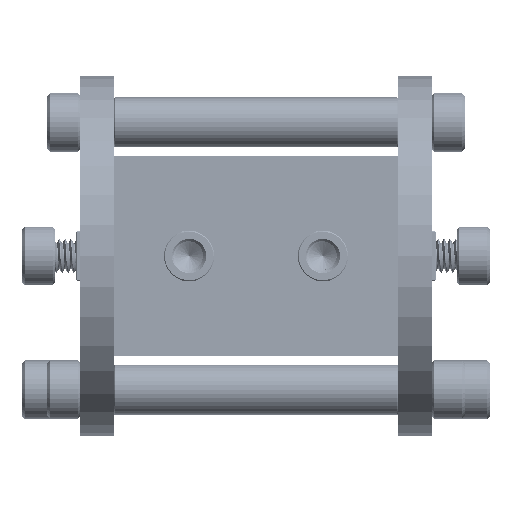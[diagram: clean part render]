
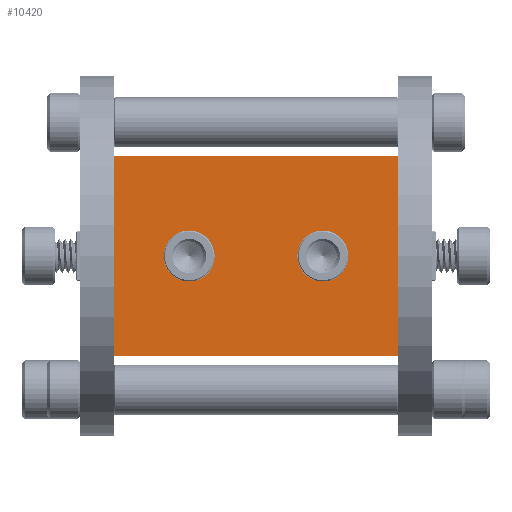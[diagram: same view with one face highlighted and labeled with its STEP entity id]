
A CAD part, front view. The second image highlights one B-rep face of the part: STEP entity #10420.
In plain terms, the highlighted planar face has unit normal (0, -1, 0).
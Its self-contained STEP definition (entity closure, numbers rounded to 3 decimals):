
#388 = AXIS2_PLACEMENT_3D ( 'NONE', #133023, #211366, #30955 ) ;
#1561 = DIRECTION ( 'NONE',  ( 0., 1., 0. ) ) ;
#5619 = VERTEX_POINT ( 'NONE', #104773 ) ;
#8354 = EDGE_LOOP ( 'NONE', ( #230948, #50774, #32605, #21586, #194324, #81010, #59736, #224327, #98295, #165509, #96641, #242982 ) ) ;
#8440 = VERTEX_POINT ( 'NONE', #69949 ) ;
#10420 = ADVANCED_FACE ( 'NONE', ( #159185, #184490, #52155 ), #213085, .F. ) ;
#12187 = VECTOR ( 'NONE', #18721, 1000. ) ;
#12696 = VECTOR ( 'NONE', #84573, 1000. ) ;
#18721 = DIRECTION ( 'NONE',  ( -1., 0., 0. ) ) ;
#19913 = EDGE_CURVE ( 'NONE', #123513, #101525, #99421, .T. ) ;
#19920 = EDGE_CURVE ( 'NONE', #145304, #210661, #253686, .T. ) ;
#21586 = ORIENTED_EDGE ( 'NONE', *, *, #160083, .T. ) ;
#24102 = CARTESIAN_POINT ( 'NONE',  ( 21., 0., 0. ) ) ;
#26021 = VECTOR ( 'NONE', #239916, 1000. ) ;
#26705 = DIRECTION ( 'NONE',  ( 0., 1., 0. ) ) ;
#27419 = ORIENTED_EDGE ( 'NONE', *, *, #148681, .F. ) ;
#29754 = CARTESIAN_POINT ( 'NONE',  ( 17., 0., -8. ) ) ;
#30955 = DIRECTION ( 'NONE',  ( 0., 0., 1. ) ) ;
#32605 = ORIENTED_EDGE ( 'NONE', *, *, #19920, .F. ) ;
#35142 = VECTOR ( 'NONE', #67130, 1000. ) ;
#37350 = VERTEX_POINT ( 'NONE', #91298 ) ;
#43489 = CARTESIAN_POINT ( 'NONE',  ( 17., 0., 12. ) ) ;
#50379 = LINE ( 'NONE', #185208, #66070 ) ;
#50774 = ORIENTED_EDGE ( 'NONE', *, *, #100689, .T. ) ;
#51886 = CARTESIAN_POINT ( 'NONE',  ( -17., 0., -12. ) ) ;
#52155 = FACE_BOUND ( 'NONE', #57941, .T. ) ;
#53676 = DIRECTION ( 'NONE',  ( 0., 0., -1. ) ) ;
#57941 = EDGE_LOOP ( 'NONE', ( #27419, #83423 ) ) ;
#58280 = EDGE_CURVE ( 'NONE', #171381, #184514, #240135, .T. ) ;
#58534 = VECTOR ( 'NONE', #221271, 1000. ) ;
#59736 = ORIENTED_EDGE ( 'NONE', *, *, #117413, .T. ) ;
#61579 = EDGE_LOOP ( 'NONE', ( #121874, #135801 ) ) ;
#64679 = DIRECTION ( 'NONE',  ( 0., 0., 1. ) ) ;
#66070 = VECTOR ( 'NONE', #64679, 1000. ) ;
#66958 = DIRECTION ( 'NONE',  ( 0., 0., -1. ) ) ;
#66994 = EDGE_CURVE ( 'NONE', #154376, #5619, #104625, .T. ) ;
#67034 = EDGE_CURVE ( 'NONE', #37350, #144685, #139207, .T. ) ;
#67130 = DIRECTION ( 'NONE',  ( 0., 0., -1. ) ) ;
#69466 = CARTESIAN_POINT ( 'NONE',  ( 0., 0., -8. ) ) ;
#69949 = CARTESIAN_POINT ( 'NONE',  ( 17., 0., -12. ) ) ;
#72788 = LINE ( 'NONE', #146378, #35142 ) ;
#75871 = AXIS2_PLACEMENT_3D ( 'NONE', #245870, #26705, #85718 ) ;
#79631 = LINE ( 'NONE', #174216, #227640 ) ;
#80423 = LINE ( 'NONE', #208610, #146599 ) ;
#81010 = ORIENTED_EDGE ( 'NONE', *, *, #153056, .F. ) ;
#82303 = CARTESIAN_POINT ( 'NONE',  ( 0., 0., -12. ) ) ;
#83423 = ORIENTED_EDGE ( 'NONE', *, *, #66994, .F. ) ;
#84573 = DIRECTION ( 'NONE',  ( 0., 0., 1. ) ) ;
#85718 = DIRECTION ( 'NONE',  ( 0., 0., 1. ) ) ;
#88090 = EDGE_CURVE ( 'NONE', #144685, #37350, #159923, .T. ) ;
#91298 = CARTESIAN_POINT ( 'NONE',  ( -8., 0., -3.05 ) ) ;
#91729 = AXIS2_PLACEMENT_3D ( 'NONE', #199601, #120412, #201352 ) ;
#93795 = CARTESIAN_POINT ( 'NONE',  ( -8., 0., 3.05 ) ) ;
#96641 = ORIENTED_EDGE ( 'NONE', *, *, #174510, .T. ) ;
#98295 = ORIENTED_EDGE ( 'NONE', *, *, #184463, .F. ) ;
#99028 = CARTESIAN_POINT ( 'NONE',  ( -17., 0., -8. ) ) ;
#99421 = LINE ( 'NONE', #24102, #58534 ) ;
#100024 = CARTESIAN_POINT ( 'NONE',  ( 0., 0., 8. ) ) ;
#100689 = EDGE_CURVE ( 'NONE', #184514, #210661, #80423, .T. ) ;
#100728 = DIRECTION ( 'NONE',  ( -1., 0., 0. ) ) ;
#101525 = VERTEX_POINT ( 'NONE', #131581 ) ;
#104625 = CIRCLE ( 'NONE', #144123, 3.05 ) ;
#104773 = CARTESIAN_POINT ( 'NONE',  ( 8., 0., -3.05 ) ) ;
#104903 = CARTESIAN_POINT ( 'NONE',  ( -17., 0., 8. ) ) ;
#115353 = LINE ( 'NONE', #216880, #190833 ) ;
#117413 = EDGE_CURVE ( 'NONE', #228860, #101525, #213375, .T. ) ;
#118021 = VERTEX_POINT ( 'NONE', #149751 ) ;
#119304 = LINE ( 'NONE', #239602, #12187 ) ;
#120412 = DIRECTION ( 'NONE',  ( 0., -1., 0. ) ) ;
#121874 = ORIENTED_EDGE ( 'NONE', *, *, #67034, .T. ) ;
#123513 = VERTEX_POINT ( 'NONE', #222012 ) ;
#124556 = CARTESIAN_POINT ( 'NONE',  ( -21., 0., -8. ) ) ;
#131581 = CARTESIAN_POINT ( 'NONE',  ( 21., 0., -8. ) ) ;
#133023 = CARTESIAN_POINT ( 'NONE',  ( 0., 0., 0. ) ) ;
#135801 = ORIENTED_EDGE ( 'NONE', *, *, #88090, .T. ) ;
#139207 = CIRCLE ( 'NONE', #157513, 3.05 ) ;
#142090 = CARTESIAN_POINT ( 'NONE',  ( 0., 0., -8. ) ) ;
#144123 = AXIS2_PLACEMENT_3D ( 'NONE', #203989, #241826, #144154 ) ;
#144154 = DIRECTION ( 'NONE',  ( 0., 0., 1. ) ) ;
#144685 = VERTEX_POINT ( 'NONE', #93795 ) ;
#145304 = VERTEX_POINT ( 'NONE', #99028 ) ;
#146378 = CARTESIAN_POINT ( 'NONE',  ( -17., 0., 0. ) ) ;
#146599 = VECTOR ( 'NONE', #66958, 1000. ) ;
#148681 = EDGE_CURVE ( 'NONE', #5619, #154376, #161697, .T. ) ;
#149751 = CARTESIAN_POINT ( 'NONE',  ( -17., 0., 12. ) ) ;
#153056 = EDGE_CURVE ( 'NONE', #228860, #8440, #79631, .T. ) ;
#154376 = VERTEX_POINT ( 'NONE', #250567 ) ;
#157402 = VERTEX_POINT ( 'NONE', #51886 ) ;
#157513 = AXIS2_PLACEMENT_3D ( 'NONE', #242690, #1561, #160862 ) ;
#158786 = CARTESIAN_POINT ( 'NONE',  ( -21., 0., 8. ) ) ;
#159185 = FACE_OUTER_BOUND ( 'NONE', #8354, .T. ) ;
#159923 = CIRCLE ( 'NONE', #75871, 3.05 ) ;
#160083 = EDGE_CURVE ( 'NONE', #145304, #157402, #72788, .T. ) ;
#160862 = DIRECTION ( 'NONE',  ( 0., 0., 1. ) ) ;
#161697 = CIRCLE ( 'NONE', #91729, 3.05 ) ;
#162651 = LINE ( 'NONE', #82303, #203593 ) ;
#164651 = CARTESIAN_POINT ( 'NONE',  ( -17., 0., 0. ) ) ;
#165509 = ORIENTED_EDGE ( 'NONE', *, *, #257501, .T. ) ;
#166886 = EDGE_CURVE ( 'NONE', #171381, #118021, #233154, .T. ) ;
#167582 = CARTESIAN_POINT ( 'NONE',  ( 17., 0., 8. ) ) ;
#171381 = VERTEX_POINT ( 'NONE', #104903 ) ;
#174216 = CARTESIAN_POINT ( 'NONE',  ( 17., 0., 0. ) ) ;
#174510 = EDGE_CURVE ( 'NONE', #199428, #118021, #119304, .T. ) ;
#184463 = EDGE_CURVE ( 'NONE', #236973, #123513, #115353, .T. ) ;
#184490 = FACE_BOUND ( 'NONE', #61579, .T. ) ;
#184514 = VERTEX_POINT ( 'NONE', #158786 ) ;
#185208 = CARTESIAN_POINT ( 'NONE',  ( 17., 0., 0. ) ) ;
#187550 = VECTOR ( 'NONE', #100728, 1000. ) ;
#190833 = VECTOR ( 'NONE', #198391, 1000. ) ;
#194324 = ORIENTED_EDGE ( 'NONE', *, *, #236619, .F. ) ;
#198391 = DIRECTION ( 'NONE',  ( 1., 0., 0. ) ) ;
#199428 = VERTEX_POINT ( 'NONE', #43489 ) ;
#199601 = CARTESIAN_POINT ( 'NONE',  ( 8., 0., 0. ) ) ;
#201352 = DIRECTION ( 'NONE',  ( 0., 0., 1. ) ) ;
#203593 = VECTOR ( 'NONE', #223098, 1000. ) ;
#203989 = CARTESIAN_POINT ( 'NONE',  ( 8., 0., 0. ) ) ;
#208610 = CARTESIAN_POINT ( 'NONE',  ( -21., 0., 0. ) ) ;
#210661 = VERTEX_POINT ( 'NONE', #124556 ) ;
#211366 = DIRECTION ( 'NONE',  ( 0., 1., 0. ) ) ;
#213085 = PLANE ( 'NONE',  #388 ) ;
#213375 = LINE ( 'NONE', #69466, #229075 ) ;
#216880 = CARTESIAN_POINT ( 'NONE',  ( 0., 0., 8. ) ) ;
#221271 = DIRECTION ( 'NONE',  ( 0., 0., -1. ) ) ;
#222012 = CARTESIAN_POINT ( 'NONE',  ( 21., 0., 8. ) ) ;
#223098 = DIRECTION ( 'NONE',  ( -1., 0., 0. ) ) ;
#224327 = ORIENTED_EDGE ( 'NONE', *, *, #19913, .F. ) ;
#227640 = VECTOR ( 'NONE', #53676, 1000. ) ;
#228860 = VERTEX_POINT ( 'NONE', #29754 ) ;
#229075 = VECTOR ( 'NONE', #231371, 1000. ) ;
#230948 = ORIENTED_EDGE ( 'NONE', *, *, #58280, .T. ) ;
#231371 = DIRECTION ( 'NONE',  ( 1., 0., 0. ) ) ;
#233154 = LINE ( 'NONE', #164651, #12696 ) ;
#236619 = EDGE_CURVE ( 'NONE', #8440, #157402, #162651, .T. ) ;
#236973 = VERTEX_POINT ( 'NONE', #167582 ) ;
#239602 = CARTESIAN_POINT ( 'NONE',  ( 0., 0., 12. ) ) ;
#239916 = DIRECTION ( 'NONE',  ( -1., 0., 0. ) ) ;
#240135 = LINE ( 'NONE', #100024, #26021 ) ;
#241826 = DIRECTION ( 'NONE',  ( 0., -1., 0. ) ) ;
#242690 = CARTESIAN_POINT ( 'NONE',  ( -8., 0., 0. ) ) ;
#242982 = ORIENTED_EDGE ( 'NONE', *, *, #166886, .F. ) ;
#245870 = CARTESIAN_POINT ( 'NONE',  ( -8., 0., 0. ) ) ;
#250567 = CARTESIAN_POINT ( 'NONE',  ( 8., 0., 3.05 ) ) ;
#253686 = LINE ( 'NONE', #142090, #187550 ) ;
#257501 = EDGE_CURVE ( 'NONE', #236973, #199428, #50379, .T. ) ;
